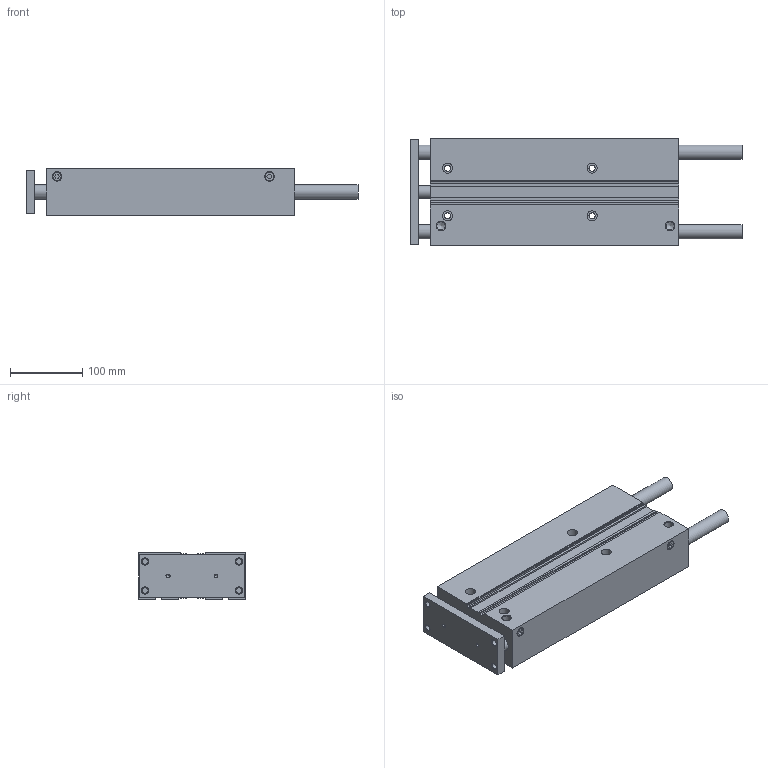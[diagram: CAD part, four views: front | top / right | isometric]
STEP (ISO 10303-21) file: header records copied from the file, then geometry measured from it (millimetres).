
FILE_DESCRIPTION(/* description */ ('STEP AP214'),/* implementation_level */ '2;1');
FILE_NAME(/* name */ 'MGPL50TF-300Z(0_0)',/* time_stamp */ '2025-09-09T08:15:43+02:00',/* author */ ('License CC BY-ND 4.0'),/* organization */ ('CADENAS'),/* preprocessor_version */ 'ST-DEVELOPER v19.3',/* originating_system */ 'PARTsolutions',/* authorisation */ ' ');
FILE_SCHEMA (('AUTOMOTIVE_DESIGN {1 0 10303 214 3 1 1}'));
Length unit declared in the file: millimetre
Products named in the file (4): MGPL50TF-300Z(0_0); MGPL50-300Z(0)_BODY; MGPL50-300Z(0)_ROD; MGP-Z_PLUG_50
Assembly tree (4 placements, depth 2):
  MGPL50TF-300Z(0_0)
    MGPL50-300Z(0)_BODY
    MGPL50-300Z(0)_ROD
    MGP-Z_PLUG_50  x2
Bounding box: 459.5 x 148 x 64 mm (x, y, z)
Volume: 2720592.8 mm3; surface area: 412208.9 mm2
Topology: 4 solids, 4 shells, 196 faces, 460 edges, 292 vertices
Faces by surface type: plane 104, cylinder 54, cone 38
Full cylindrical faces by diameter (mm): 5 x6, 8.376 x12, 8.6 x4, 10 x4, 11.445 x4, 13.157 x2, 14 x4, 18 x2, 20 x4, 50 x2
Entity records: 4913 total; most frequent: DIRECTION 848, CARTESIAN_POINT 801, ORIENTED_EDGE 678, EDGE_CURVE 339, AXIS2_PLACEMENT_3D 320, FACE_BOUND 316, EDGE_LOOP 302, VERTEX_POINT 273
